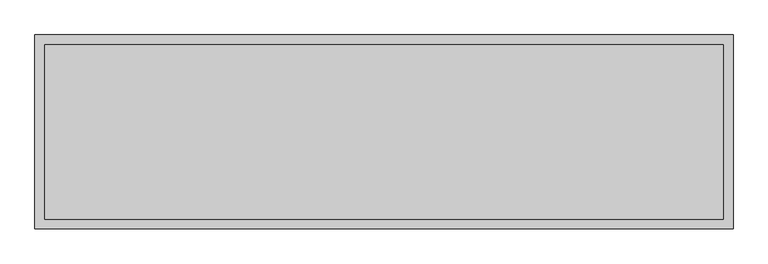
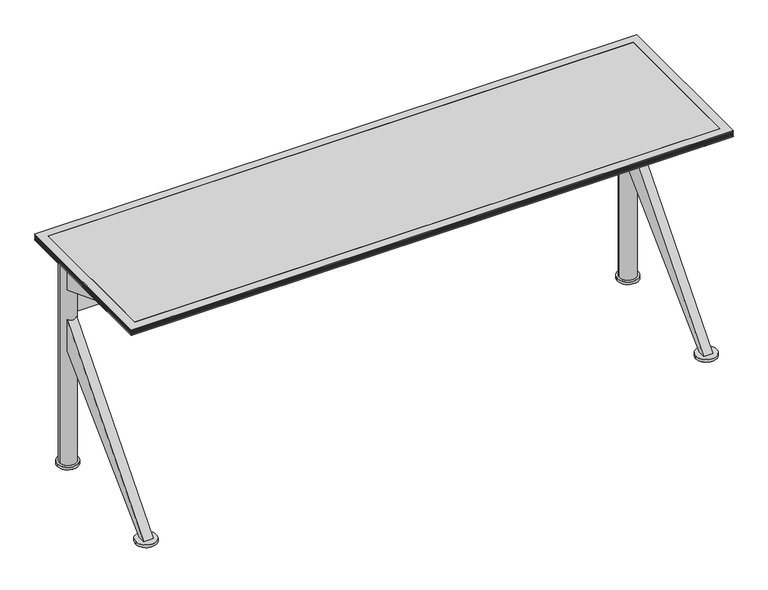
"""IFC4 building model written with IfcOpenShell, lengths in millimetres: furniture geometry, Coalesse_AM_Table_Conference_Ballet_Rectangular_KBase : Non Folding - 72L x 20W."""

from ifc_helpers import new_model, si_unit, point, frame, frame_2d, origin, origin_with_axes, place, context, project, spatial, polyline, circle_curve, trimmed, segment, composite_curve, outline, extrude, faceted_brep, source, transform, mapped, element, save
from ifc_brep_helpers import plane_surface, cylinder_surface, advanced_brep


def furniture_7c50bf01(model_context):
    return source(origin(), model_context, "Body", "SolidModel", [
        extrude(outline(composite_curve([segment(trimmed(circle_curve(frame_2d((-851.8092495, -222.25)), 25.4), [point((-877.2092495, -222.25))], [point((-826.4092495, -222.25))], False, "CARTESIAN"), True, "CONTINUOUS"), segment(trimmed(circle_curve(frame_2d((-851.8092495, -222.25)), 25.4), [point((-826.4092495, -222.25))], [point((-877.2092495, -222.25))], False, "CARTESIAN"), True, "CONTINUOUS")], self_intersect=False)), origin_with_axes(), (0.0, 0.0, 1.0), 4.2936144),
        extrude(outline(composite_curve([segment(trimmed(circle_curve(frame_2d((851.0624629, -222.25)), 25.4), [point((825.6624629, -222.25))], [point((876.4624629, -222.25))], False, "CARTESIAN"), True, "CONTINUOUS"), segment(trimmed(circle_curve(frame_2d((851.0624629, -222.25)), 25.4), [point((876.4624629, -222.25))], [point((825.6624629, -222.25))], False, "CARTESIAN"), True, "CONTINUOUS")], self_intersect=False)), origin_with_axes(), (0.0, 0.0, 1.0), 4.2936144),
        extrude(outline(composite_curve([segment(trimmed(circle_curve(frame_2d((851.0154995, 189.815286)), 25.4), [point((876.4154995, 189.815286))], [point((825.6154995, 189.815286))], False, "CARTESIAN"), True, "CONTINUOUS"), segment(trimmed(circle_curve(frame_2d((851.0154995, 189.815286)), 25.4), [point((825.6154995, 189.815286))], [point((876.4154995, 189.815286))], False, "CARTESIAN"), True, "CONTINUOUS")], self_intersect=False)), origin_with_axes(), (0.0, 0.0, 1.0), 4.2936144),
        extrude(outline(composite_curve([segment(trimmed(circle_curve(frame_2d((-851.8562129, 189.815286)), 25.4), [point((-826.4562129, 189.815286))], [point((-877.2562129, 189.815286))], False, "CARTESIAN"), True, "CONTINUOUS"), segment(trimmed(circle_curve(frame_2d((-851.8562129, 189.815286)), 25.4), [point((-877.2562129, 189.815286))], [point((-826.4562129, 189.815286))], False, "CARTESIAN"), True, "CONTINUOUS")], self_intersect=False)), origin_with_axes(), (0.0, 0.0, 1.0), 4.2936144),
        extrude(outline(composite_curve([segment(trimmed(circle_curve(frame_2d((851.0154995, 189.815286)), 31.75), [point((882.7654995, 189.815286))], [point((819.2654995, 189.815286))], False, "CARTESIAN"), True, "CONTINUOUS"), segment(trimmed(circle_curve(frame_2d((851.0154995, 189.815286)), 31.75), [point((819.2654995, 189.815286))], [point((882.7654995, 189.815286))], False, "CARTESIAN"), True, "CONTINUOUS")], self_intersect=False)), frame((0.0, 0.0, 4.2936144), z_axis=(0.0, 0.0, 1.0), x_axis=(1.0, 0.0, 0.0)), (0.0, 0.0, 1.0), 8.4063856),
        extrude(outline(composite_curve([segment(trimmed(circle_curve(frame_2d((-851.8562129, 189.815286)), 31.75), [point((-820.1062129, 189.815286))], [point((-883.6062129, 189.815286))], False, "CARTESIAN"), True, "CONTINUOUS"), segment(trimmed(circle_curve(frame_2d((-851.8562129, 189.815286)), 31.75), [point((-883.6062129, 189.815286))], [point((-820.1062129, 189.815286))], False, "CARTESIAN"), True, "CONTINUOUS")], self_intersect=False)), frame((0.0, 0.0, 4.2936144), z_axis=(0.0, 0.0, 1.0), x_axis=(1.0, 0.0, 0.0)), (0.0, 0.0, 1.0), 8.4063856),
        extrude(outline(polyline([(169.4656271, 577.7388634), (-142.874901, 698.5000242), (-111.124901, 698.5000242), (169.4656271, 641.3500242), (169.4656271, 577.7388634)])), frame((-865.2007845, 0.0, 0.0), z_axis=(1.0, 0.0, 0.0), x_axis=(0.0, 1.0, 0.0)), (0.0, 0.0, 1.0), 28.5877899),
        extrude(outline(polyline([(169.4656271, 381.0), (-211.1375951, 12.7), (-233.3624013, 12.7), (169.4656271, 482.7111245), (169.4656271, 381.0)])), frame((-865.2007845, 0.0, 0.0), z_axis=(1.0, 0.0, 0.0), x_axis=(0.0, 1.0, 0.0)), (0.0, 0.0, 1.0), 28.5877899),
        extrude(outline(polyline([(169.4656271, 577.7388634), (-142.874901, 698.5000242), (-111.124901, 698.5000242), (169.4656271, 641.3500242), (169.4656271, 577.7388634)])), frame((836.6121992, 0.0, 0.0), z_axis=(1.0, 0.0, 0.0), x_axis=(0.0, 1.0, 0.0)), (0.0, 0.0, 1.0), 28.575),
        extrude(outline(polyline([(169.4656271, 381.0), (-211.1375951, 12.7), (-233.3624013, 12.7), (169.4656271, 482.7111245), (169.4656271, 381.0)])), frame((836.6121992, 0.0, 0.0), z_axis=(1.0, 0.0, 0.0), x_axis=(0.0, 1.0, 0.0)), (0.0, 0.0, 1.0), 28.575),
        advanced_brep(
        [(828.9033169, 177.8000021, 568.3250121), (-828.9033169, 177.8000021, 568.3250121), (-828.9033169, 177.8000021, 492.1250121), (828.9033169, 177.8000021, 492.1250121), (-825.5003634, 190.5, 492.1250121), (-828.9032635, 203.1999052, 492.1250121), (828.9032635, 203.1999052, 492.1250121), (825.5003634, 190.5, 492.1250121), (-828.9032635, 203.1999052, 568.3250121), (828.9032635, 203.1999052, 568.3250121), (825.5003634, 190.5, 568.3250121), (-825.5003634, 190.5, 568.3250121), (-876.3003633, 190.5, 698.5000242), (-825.5003634, 190.5, 698.5000242), (825.5003634, 190.5, 698.5000242), (876.3003633, 190.5, 698.5000242), (-876.3003633, 190.5, 12.7), (-825.5003634, 190.5, 12.7), (825.5003634, 190.5, 12.7), (876.3003633, 190.5, 12.7)],
        [
            (0, 1),
            (1, 2),
            (2, 3),
            (3, 0),
            (2, 4, circle_curve(frame((-850.9003633, 190.5, 492.1250121), z_axis=(0.0, 0.0, 1.0), x_axis=(1.0, 0.0, 0.0)), 25.3999999)),
            (4, 5, circle_curve(frame((-850.9003633, 190.5, 492.1250121), z_axis=(0.0, 0.0, 1.0), x_axis=(1.0, 0.0, 0.0)), 25.3999999)),
            (5, 6),
            (6, 7, circle_curve(frame((850.9003633, 190.5, 492.1250121), z_axis=(0.0, 0.0, 1.0), x_axis=(1.0, 0.0, 0.0)), 25.3999999)),
            (7, 3, circle_curve(frame((850.9003633, 190.5, 492.1250121), z_axis=(0.0, 0.0, 1.0), x_axis=(1.0, 0.0, 0.0)), 25.3999999)),
            (5, 8),
            (8, 9),
            (9, 6),
            (0, 10, circle_curve(frame((850.9003633, 190.5, 568.3250121), z_axis=(0.0, 0.0, -1.0), x_axis=(1.0, 0.0, 0.0)), 25.3999999)),
            (10, 9, circle_curve(frame((850.9003633, 190.5, 568.3250121), z_axis=(0.0, 0.0, -1.0), x_axis=(1.0, 0.0, 0.0)), 25.3999999)),
            (8, 11, circle_curve(frame((-850.9003633, 190.5, 568.3250121), z_axis=(0.0, 0.0, -1.0), x_axis=(1.0, 0.0, 0.0)), 25.3999999)),
            (11, 1, circle_curve(frame((-850.9003633, 190.5, 568.3250121), z_axis=(0.0, 0.0, -1.0), x_axis=(1.0, 0.0, 0.0)), 25.3999999)),
            (12, 13, circle_curve(frame((-850.9003633, 190.5, 698.5000242), z_axis=(0.0, 0.0, 1.0), x_axis=(1.0, 0.0, 0.0)), 25.3999999)),
            (13, 12, circle_curve(frame((-850.9003633, 190.5, 698.5000242), z_axis=(0.0, 0.0, 1.0), x_axis=(1.0, 0.0, 0.0)), 25.3999999)),
            (14, 15, circle_curve(frame((850.9003633, 190.5, 698.5000242), z_axis=(0.0, 0.0, 1.0), x_axis=(1.0, 0.0, 0.0)), 25.3999999)),
            (15, 14, circle_curve(frame((850.9003633, 190.5, 698.5000242), z_axis=(0.0, 0.0, 1.0), x_axis=(1.0, 0.0, 0.0)), 25.3999999)),
            (16, 17, circle_curve(frame((-850.9003633, 190.5, 12.7), z_axis=(0.0, 0.0, -1.0), x_axis=(1.0, 0.0, 0.0)), 25.3999999)),
            (17, 16, circle_curve(frame((-850.9003633, 190.5, 12.7), z_axis=(0.0, 0.0, -1.0), x_axis=(1.0, 0.0, 0.0)), 25.3999999)),
            (18, 19, circle_curve(frame((850.9003633, 190.5, 12.7), z_axis=(0.0, 0.0, -1.0), x_axis=(1.0, 0.0, 0.0)), 25.3999999)),
            (19, 18, circle_curve(frame((850.9003633, 190.5, 12.7), z_axis=(0.0, 0.0, -1.0), x_axis=(1.0, 0.0, 0.0)), 25.3999999)),
            (12, 16),
            (17, 4),
            (11, 13),
            (14, 10),
            (7, 18),
            (19, 15),
        ],
        [
            plane_surface(frame((836.6121992, 177.8000021, 568.3250121), z_axis=(0.0, -1.0, 0.0), x_axis=(-1.0, 0.0, 0.0))),
            plane_surface(frame((836.6121992, 177.8000021, 492.1250121), z_axis=(0.0, 0.0, -1.0), x_axis=(-1.0, 0.0, 0.0))),
            plane_surface(frame((836.6121992, 203.1999052, 492.1250121), z_axis=(0.0, 1.0, 0.0), x_axis=(-1.0, 0.0, 0.0))),
            plane_surface(frame((836.6121992, 203.1999052, 568.3250121), z_axis=(0.0, 0.0, 1.0), x_axis=(-1.0, 0.0, 0.0))),
            plane_surface(frame((-825.5003634, 190.5, 698.5000242), z_axis=(0.0, 0.0, 1.0), x_axis=(0.0, 1.0, 0.0))),
            plane_surface(frame((-825.5003634, 190.5, 12.7), z_axis=(0.0, 0.0, -1.0), x_axis=(0.0, -1.0, 0.0))),
            cylinder_surface(frame((-850.9003633, 190.5, 12.7), z_axis=(0.0, 0.0, 1.0), x_axis=(1.0, 0.0, 0.0)), 25.3999999),
            cylinder_surface(frame((850.9003633, 190.5, 0.0), z_axis=(0.0, 0.0, 1.0), x_axis=(1.0, 0.0, 0.0)), 25.3999999),
        ],
        [
            (0, [[1, 2, 3, 4]]),
            (1, [[-3, 5, 6, 7, 8, 9]]),
            (2, [[-7, 10, 11, 12]]),
            (3, [[-1, 13, 14, -11, 15, 16]]),
            (4, [[17, 18]]),
            (4, [[19, 20]]),
            (5, [[21, 22]]),
            (5, [[23, 24]]),
            (6, [[-17, 25, -22, 26, -5, -2, -16, 27]]),
            (6, [[-18, -27, -15, -10, -6, -26, -21, -25]]),
            (7, [[-19, 28, -13, -4, -9, 29, -24, 30]]),
            (7, [[-20, -30, -23, -29, -8, -12, -14, -28]]),
        ],
    ),
        extrude(outline(composite_curve([segment(trimmed(circle_curve(frame_2d((-851.8092495, -222.25)), 31.75), [point((-883.5592495, -222.25))], [point((-820.0592495, -222.25))], False, "CARTESIAN"), True, "CONTINUOUS"), segment(trimmed(circle_curve(frame_2d((-851.8092495, -222.25)), 31.75), [point((-820.0592495, -222.25))], [point((-883.5592495, -222.25))], False, "CARTESIAN"), True, "CONTINUOUS")], self_intersect=False)), frame((0.0, 0.0, 4.2936144), z_axis=(0.0, 0.0, 1.0), x_axis=(1.0, 0.0, 0.0)), (0.0, 0.0, 1.0), 8.4063856),
        extrude(outline(composite_curve([segment(trimmed(circle_curve(frame_2d((851.0624629, -222.25)), 31.75), [point((819.3124629, -222.25))], [point((882.8124629, -222.25))], False, "CARTESIAN"), True, "CONTINUOUS"), segment(trimmed(circle_curve(frame_2d((851.0624629, -222.25)), 31.75), [point((882.8124629, -222.25))], [point((819.3124629, -222.25))], False, "CARTESIAN"), True, "CONTINUOUS")], self_intersect=False)), frame((0.0, 0.0, 4.2936144), z_axis=(0.0, 0.0, 1.0), x_axis=(1.0, 0.0, 0.0)), (0.0, 0.0, 1.0), 8.4063856),
        faceted_brep([(-914.4003633, 254.0, 704.85), (-889.0003876, 228.6000242, 698.5000242), (-889.0003876, -228.5999516, 698.5000242), (-914.4003633, -253.9999273, 704.85), (-914.4003633, 254.0, 708.0250242), (-914.4003633, -253.9999273, 708.0250242), (-911.2253755, 250.8250121, 709.6125), (-911.2253755, -250.8249394, 709.6125), (-914.4003633, 254.0, 711.1999758), (-914.4003633, -253.9999273, 711.1999758), (-911.2253755, 250.8250121, 712.7875242), (-911.2253755, -250.8249394, 712.7875242), (-914.4003633, 254.0, 714.375), (-914.4003633, -253.9999273, 714.375), (-911.2253755, 250.8250121, 715.9624758), (-911.2253755, -250.8249394, 715.9624758), (-914.4003633, 254.0, 717.5500242), (-914.4003633, -253.9999273, 717.5500242), (-911.2253755, 250.8250121, 719.1375), (-911.2253755, -250.8249394, 719.1375), (-914.4003633, 254.0, 720.7249758), (-914.4003633, -253.9999273, 720.7249758), (-914.4003633, 254.0, 723.9), (-914.4003633, -253.9999273, 723.9), (-889.0003876, 228.6000242, 723.9), (-889.0003876, -228.5999516, 723.9), (888.9998062, -228.5999516, 698.5000242), (914.399782, -253.9999273, 704.85), (914.399782, -253.9999273, 708.0250242), (911.2247941, -250.8249394, 709.6125), (914.399782, -253.9999273, 711.1999758), (911.2247941, -250.8249394, 712.7875242), (914.399782, -253.9999273, 714.375), (911.2247941, -250.8249394, 715.9624758), (914.399782, -253.9999273, 717.5500242), (911.2247941, -250.8249394, 719.1375), (914.399782, -253.9999273, 720.7249758), (914.399782, -253.9999273, 723.9), (888.9998062, -228.5999516, 723.9), (888.9998062, 228.6000242, 698.5000242), (914.399782, 254.0, 704.85), (914.399782, 254.0, 708.0250242), (911.2247941, 250.8250121, 709.6125), (914.399782, 254.0, 711.1999758), (911.2247941, 250.8250121, 712.7875242), (914.399782, 254.0, 714.375), (911.2247941, 250.8250121, 715.9624758), (914.399782, 254.0, 717.5500242), (911.2247941, 250.8250121, 719.1375), (914.399782, 254.0, 720.7249758), (914.399782, 254.0, 723.9), (888.9998062, 228.6000242, 723.9)], [[[0, 1, 2, 3]], [[4, 0, 3, 5]], [[6, 4, 5, 7]], [[8, 6, 7, 9]], [[10, 8, 9, 11]], [[12, 10, 11, 13]], [[14, 12, 13, 15]], [[16, 14, 15, 17]], [[18, 16, 17, 19]], [[20, 18, 19, 21]], [[22, 20, 21, 23]], [[1, 24, 25, 2]], [[3, 2, 26, 27]], [[5, 3, 27, 28]], [[7, 5, 28, 29]], [[9, 7, 29, 30]], [[11, 9, 30, 31]], [[13, 11, 31, 32]], [[15, 13, 32, 33]], [[17, 15, 33, 34]], [[19, 17, 34, 35]], [[21, 19, 35, 36]], [[23, 21, 36, 37]], [[2, 25, 38, 26]], [[27, 26, 39, 40]], [[28, 27, 40, 41]], [[29, 28, 41, 42]], [[30, 29, 42, 43]], [[31, 30, 43, 44]], [[32, 31, 44, 45]], [[33, 32, 45, 46]], [[34, 33, 46, 47]], [[35, 34, 47, 48]], [[36, 35, 48, 49]], [[37, 36, 49, 50]], [[26, 38, 51, 39]], [[40, 39, 1, 0]], [[41, 40, 0, 4]], [[42, 41, 4, 6]], [[43, 42, 6, 8]], [[44, 43, 8, 10]], [[45, 44, 10, 12]], [[46, 45, 12, 14]], [[47, 46, 14, 16]], [[48, 47, 16, 18]], [[49, 48, 18, 20]], [[50, 49, 20, 22]], [[23, 37, 50, 22], [24, 51, 38, 25]], [[39, 51, 24, 1]]]),
        extrude(outline(polyline([(888.9998062, 228.6000242), (888.9998062, -228.5999516), (-889.0003876, -228.5999516), (-889.0003876, 228.6000242), (888.9998062, 228.6000242)])), frame((0.0, 0.0, 704.85), z_axis=(0.0, 0.0, 1.0), x_axis=(1.0, 0.0, 0.0)), (0.0, 0.0, 1.0), 19.05),
    ])


if __name__ == "__main__":
    model = new_model("IFC4")
    model_context = context("Model", 3, world=origin())
    ifc_project = project(units=[si_unit("LENGTHUNIT", "METRE", prefix="MILLI")], contexts=[model_context])
    site = spatial("IfcSite", under=ifc_project)
    building = spatial("IfcBuilding", under=site)
    placement = place(None, origin())
    furniture_shape = furniture_7c50bf01(model_context)
    element("IfcFurniture", 1, ObjectType="Coalesse_AM_Table_Conference_Ballet_Rectangular_KBase : Non Folding - 72L x 20W", at=placement, inside=building, context=model_context, shape_type="MappedRepresentation", body=[
        mapped(furniture_shape, transform((0.0, 0.0, 0.0), x_axis=(1.0, 0.0, 0.0), y_axis=(0.0, 1.0, 0.0), z_axis=(0.0, 0.0, 1.0))),
    ])
    save(model, "model.ifc")
